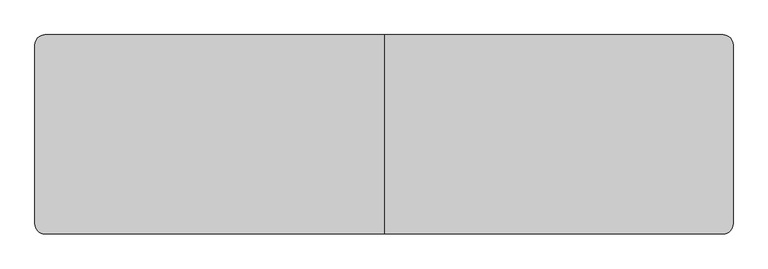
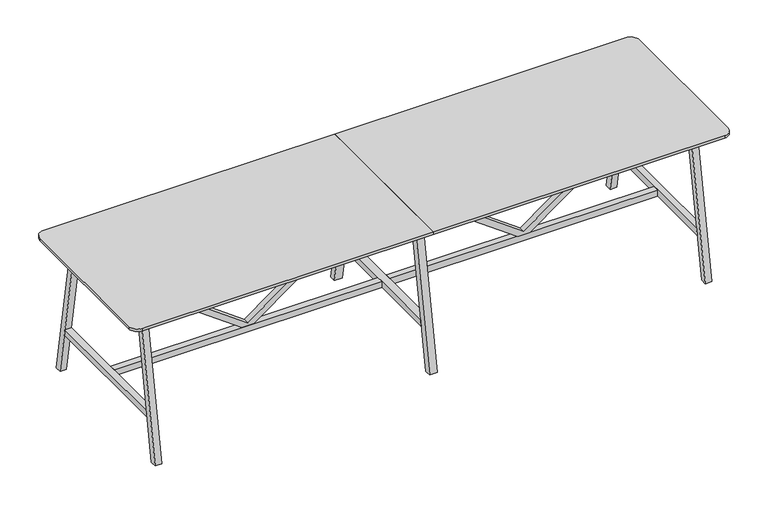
"""IFC4 building model written with IfcOpenShell, lengths in millimetres: furniture geometry, BDG_BossDesign_Tbls_AgentTables6Legs : AGE-HT-6L-4200-1200-3D."""

from ifc_helpers import new_model, si_unit, point, frame, frame_2d, origin, place, context, project, spatial, polyline, circle_curve, trimmed, segment, composite_curve, outline, extrude, source, transform, mapped, element, save


def furniture_9780884d(model_context):
    return source(origin(), model_context, "Body", "SweptSolid", [
        extrude(outline(polyline([(345.0, 924.0823957), (345.0, 1008.4176043), (992.0, 1905.0), (1032.0, 1905.0), (1032.0, 1885.0), (365.0, 966.25), (1032.0, 47.5), (1032.0, 27.5), (992.0, 27.5), (345.0, 924.0823957)])), frame((0.0, -22.5000305, 0.0), z_axis=(0.0, 1.0, 0.0), x_axis=(0.0, 0.0, 1.0)), (0.0, 0.0, 1.0), 45.000061),
        extrude(outline(polyline([(345.0, -924.0823957), (992.0, -27.5), (1032.0, -27.5), (1032.0, -47.5), (365.0, -966.25), (1032.0, -1885.0), (1032.0, -1905.0), (992.0, -1905.0), (345.0, -1008.4176043), (345.0, -924.0823957)])), frame((0.0, -22.5000305, 0.0), z_axis=(0.0, 1.0, 0.0), x_axis=(0.0, 0.0, 1.0)), (0.0, 0.0, 1.0), 45.000061),
        extrude(outline(polyline([(600.0, 0.0), (554.9999949, 0.0), (385.5, 970.0), (430.5000051, 970.0), (600.0, 0.0)])), frame((-27.5, 0.0, 0.0), z_axis=(1.0, 0.0, 0.0), x_axis=(0.0, 1.0, 0.0)), (0.0, 0.0, 1.0), 55.0),
        extrude(outline(polyline([(-600.0, 0.0), (-430.5000051, 970.0), (-385.5, 970.0), (-554.9999949, 0.0), (-600.0, 0.0)])), frame((-27.5, 0.0, 0.0), z_axis=(1.0, 0.0, 0.0), x_axis=(0.0, 1.0, 0.0)), (0.0, 0.0, 1.0), 55.0),
        extrude(outline(polyline([(502.5773161, 300.0), (-502.5773161, 300.0), (-494.7139143, 345.0), (494.7139143, 345.0), (502.5773161, 300.0)])), frame((-27.5, 0.0, 0.0), z_axis=(1.0, 0.0, 0.0), x_axis=(0.0, 1.0, 0.0)), (0.0, 0.0, 1.0), 55.0),
        extrude(outline(composite_curve([segment(polyline([(0.0, 600.0), (0.0, -600.0), (-2040.0, -600.0)]), True, "CONTINUOUS"), segment(trimmed(circle_curve(frame_2d((-2040.0, -540.0)), 60.0), [point((-2040.0, -600.0))], [point((-2100.0, -540.0))], False, "CARTESIAN"), True, "CONTINUOUS"), segment(polyline([(-2100.0, -540.0), (-2100.0, 540.0)]), True, "CONTINUOUS"), segment(trimmed(circle_curve(frame_2d((-2040.0, 540.0)), 60.0), [point((-2100.0, 540.0))], [point((-2040.0, 600.0))], False, "CARTESIAN"), True, "CONTINUOUS"), segment(polyline([(-2040.0, 600.0), (0.0, 600.0)]), True, "CONTINUOUS")], self_intersect=False)), frame((0.0, 0.0, 1032.0), z_axis=(0.0, 0.0, 1.0), x_axis=(1.0, 0.0, 0.0)), (0.0, 0.0, 1.0), 18.0),
        extrude(outline(polyline([(-494.7139143, 345.0), (494.7139143, 345.0), (502.5773161, 300.0), (-502.5773161, 300.0), (-494.7139143, 345.0)])), frame((1905.0, 0.0, 0.0), z_axis=(1.0, 0.0, 0.0), x_axis=(0.0, 1.0, 0.0)), (0.0, 0.0, 1.0), 45.0),
        extrude(outline(polyline([(600.0, 0.0), (554.9999949, 0.0), (385.5, 970.0), (430.5000051, 970.0), (600.0, 0.0)])), frame((-1950.0, 0.0, 0.0), z_axis=(1.0, 0.0, 0.0), x_axis=(0.0, 1.0, 0.0)), (0.0, 0.0, 1.0), 45.0),
        extrude(outline(polyline([(-600.0, 0.0), (-430.5000051, 970.0), (-385.5, 970.0), (-554.9999949, 0.0), (-600.0, 0.0)])), frame((-1950.0, 0.0, 0.0), z_axis=(1.0, 0.0, 0.0), x_axis=(0.0, 1.0, 0.0)), (0.0, 0.0, 1.0), 45.0),
        extrude(outline(polyline([(-494.7139143, 345.0), (494.7139143, 345.0), (502.5773161, 300.0), (-502.5773161, 300.0), (-494.7139143, 345.0)])), frame((-1950.0, 0.0, 0.0), z_axis=(1.0, 0.0, 0.0), x_axis=(0.0, 1.0, 0.0)), (0.0, 0.0, 1.0), 45.0),
        extrude(outline(polyline([(-426.6006165, 944.973938), (-404.2770691, 1032.0), (-379.5, 1032.0), (-401.8235474, 944.973938), (-426.6006165, 944.973938)])), frame((-1905.0, 0.0, 0.0), z_axis=(1.0, 0.0, 0.0), x_axis=(0.0, 1.0, 0.0)), (0.0, 0.0, 1.0), 3810.0),
        extrude(outline(polyline([(426.6006165, 944.973938), (401.8235474, 944.973938), (379.5, 1032.0), (404.2770691, 1032.0), (426.6006165, 944.973938)])), frame((-1905.0, 0.0, 0.0), z_axis=(1.0, 0.0, 0.0), x_axis=(0.0, 1.0, 0.0)), (0.0, 0.0, 1.0), 3810.0),
        extrude(outline(polyline([(599.7999878, 0.0), (554.7999827, 0.0), (385.5, 970.0), (430.5000051, 970.0), (599.7999878, 0.0)])), frame((1905.0, 0.0, 0.0), z_axis=(1.0, 0.0, 0.0), x_axis=(0.0, 1.0, 0.0)), (0.0, 0.0, 1.0), 45.0),
        extrude(outline(polyline([(-599.7999878, 0.0), (-430.5000051, 970.0), (-385.5, 970.0), (-554.7999827, 0.0), (-599.7999878, 0.0)])), frame((1905.0, 0.0, 0.0), z_axis=(1.0, 0.0, 0.0), x_axis=(0.0, 1.0, 0.0)), (0.0, 0.0, 1.0), 45.0),
        extrude(outline(polyline([(-27.5, 22.5000305), (-27.5, -22.5000305), (-1905.0, -22.5000305), (-1905.0, 22.5000305), (-27.5, 22.5000305)])), frame((0.0, 0.0, 300.0), z_axis=(0.0, 0.0, 1.0), x_axis=(1.0, 0.0, 0.0)), (0.0, 0.0, 1.0), 45.0),
        extrude(outline(polyline([(27.5, -22.5000305), (27.5, 22.5000305), (1905.0, 22.5000305), (1905.0, -22.5000305), (27.5, -22.5000305)])), frame((0.0, 0.0, 300.0), z_axis=(0.0, 0.0, 1.0), x_axis=(1.0, 0.0, 0.0)), (0.0, 0.0, 1.0), 45.0),
        extrude(outline(composite_curve([segment(trimmed(circle_curve(frame_2d((2040.0, 540.0)), 60.0), [point((2040.0, 600.0))], [point((2100.0, 540.0))], False, "CARTESIAN"), True, "CONTINUOUS"), segment(polyline([(2100.0, 540.0), (2100.0, -540.0)]), True, "CONTINUOUS"), segment(trimmed(circle_curve(frame_2d((2040.0, -540.0)), 60.0), [point((2100.0, -540.0))], [point((2040.0, -600.0))], False, "CARTESIAN"), True, "CONTINUOUS"), segment(polyline([(2040.0, -600.0), (0.0, -600.0), (0.0, 600.0), (2040.0, 600.0)]), True, "CONTINUOUS")], self_intersect=False)), frame((0.0, 0.0, 1032.0), z_axis=(0.0, 0.0, 1.0), x_axis=(1.0, 0.0, 0.0)), (0.0, 0.0, 1.0), 18.0),
    ])


if __name__ == "__main__":
    model = new_model("IFC4")
    model_context = context("Model", 3, world=origin())
    ifc_project = project(units=[si_unit("LENGTHUNIT", "METRE", prefix="MILLI")], contexts=[model_context])
    site = spatial("IfcSite", under=ifc_project)
    building = spatial("IfcBuilding", under=site)
    placement = place(None, origin())
    furniture_shape = furniture_9780884d(model_context)
    element("IfcFurniture", 1, ObjectType="BDG_BossDesign_Tbls_AgentTables6Legs : AGE-HT-6L-4200-1200-3D", at=placement, inside=building, context=model_context, shape_type="MappedRepresentation", body=[
        mapped(furniture_shape, transform((0.0, 0.0, 0.0), x_axis=(1.0, 0.0, 0.0), y_axis=(0.0, 1.0, 0.0), z_axis=(0.0, 0.0, 1.0))),
    ])
    save(model, "model.ifc")
